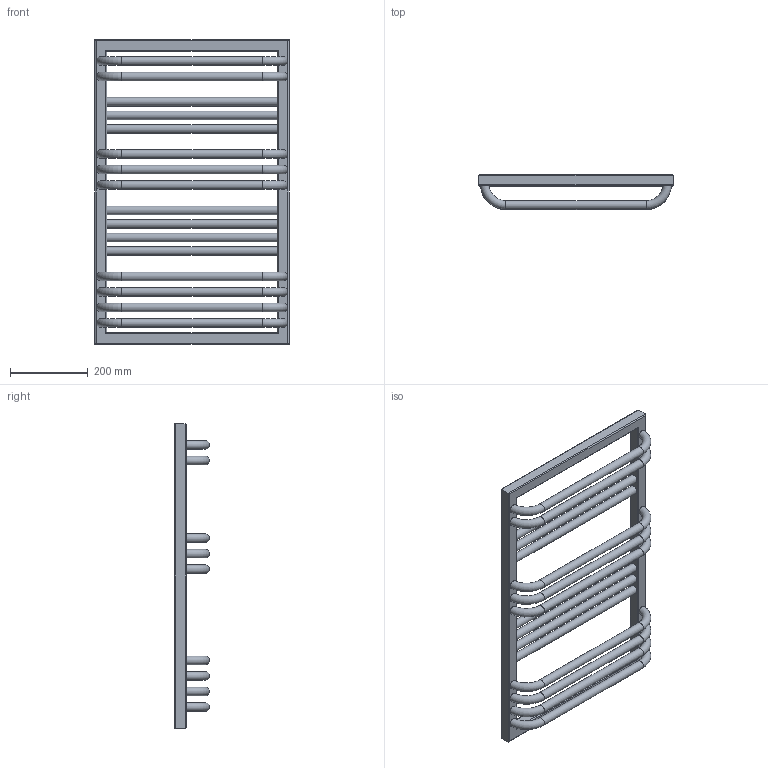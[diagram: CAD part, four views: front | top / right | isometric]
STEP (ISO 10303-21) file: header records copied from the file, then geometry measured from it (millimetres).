
FILE_DESCRIPTION((''),'2;1');
FILE_NAME('Z:\R\G\P\RGPH18 - Grzejnik POC\Work\Inventor\POC 1-6-8 v2.0\Marketing\AutoCad 3D\POC-785-500-1-6-8.stp','2012-07-12T14:39:47',('KurKa'),(''),'Autodesk Inventor 2012','Autodesk Inventor 2012','');
FILE_SCHEMA(('AUTOMOTIVE_DESIGN { 1 0 10303 214 1 1 1 1 }'));
Length unit declared in the file: millimetre
Products named in the file (1): POC-785-500-1-6-8
Bounding box: 500 x 90 x 785 mm (x, y, z)
Volume: 5133593.8 mm3; surface area: 808058.9 mm2
Topology: 1 solids, 1 shells, 69 faces, 173 edges, 109 vertices
Faces by surface type: cylinder 35, torus 21, plane 13
Full cylindrical faces by diameter (mm): 18.631 x3, 22 x16
Entity records: 2918 total; most frequent: CARTESIAN_POINT 1446, DIRECTION 294, ORIENTED_EDGE 230, EDGE_LOOP 146, AXIS2_PLACEMENT_3D 127, EDGE_CURVE 115, VERTEX_POINT 91, FACE_BOUND 77
